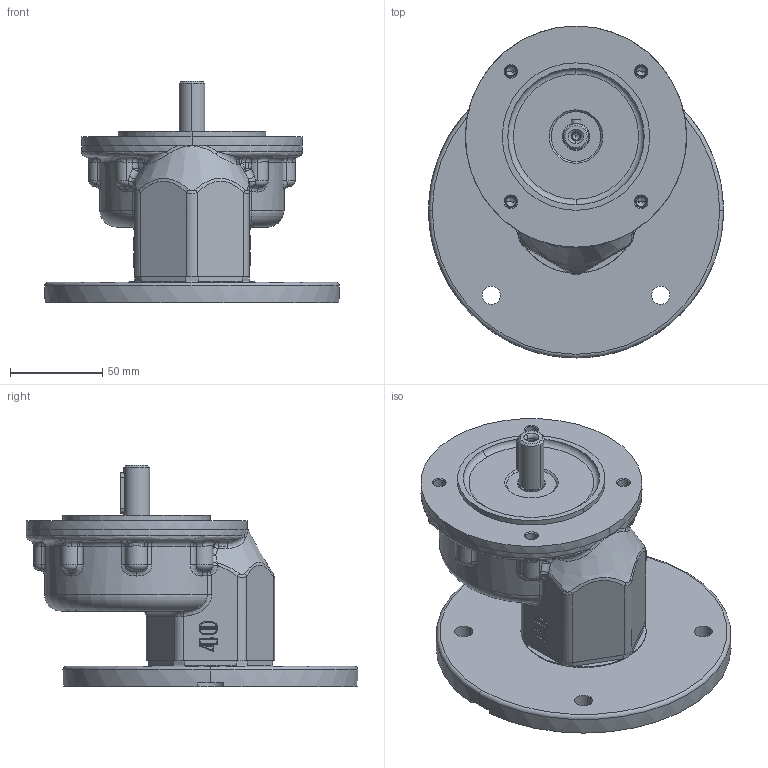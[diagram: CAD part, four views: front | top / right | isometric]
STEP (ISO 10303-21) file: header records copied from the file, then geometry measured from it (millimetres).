
FILE_DESCRIPTION (( 'STEP AP214' ), '1' );
FILE_NAME ('atc40-f130-ap80.STEP', '2010-01-28T10:19:08', ( '' ), ( '' ), 'SwSTEP 2.0', 'SolidWorks 2003240', '' );
FILE_SCHEMA (( 'AUTOMOTIVE_DESIGN' ));
Length unit declared in the file: millimetre
Products named in the file (4): pøíruba 130 d52 MRT50a_Výchozí; D6912_Šroub DIN 6912 - M5x16; ATC40_ATC40-AP80; atc40-f130-ap80
Assembly tree (8 placements, depth 2):
  atc40-f130-ap80
    pøíruba 130 d52 MRT50a_Výchozí
    D6912_Šroub DIN 6912 - M5x16  x6
    ATC40_ATC40-AP80
Bounding box: 160 x 180 x 120 mm (x, y, z)
Volume: 737738.6 mm3; surface area: 106665 mm2
Topology: 8 solids, 8 shells, 690 faces, 1485 edges, 824 vertices
Faces by surface type: cylinder 209, plane 190, cone 133, torus 88, bspline 52, sphere 18
Entity records: 64475 total; most frequent: CARTESIAN_POINT 52937, DIRECTION 2463, ORIENTED_EDGE 2246, EDGE_CURVE 1123, AXIS2_PLACEMENT_3D 1028, VERTEX_POINT 667, EDGE_LOOP 570, CIRCLE 564
